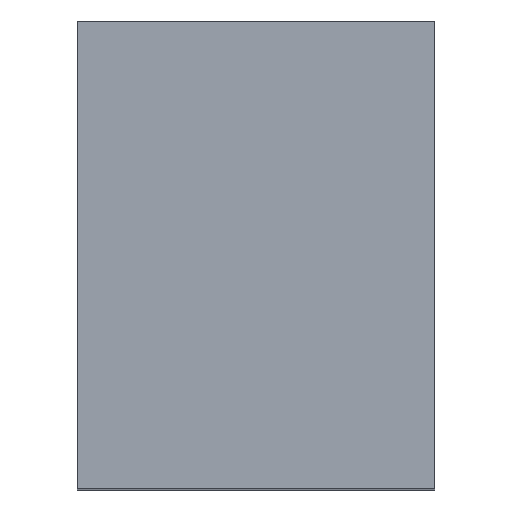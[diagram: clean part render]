
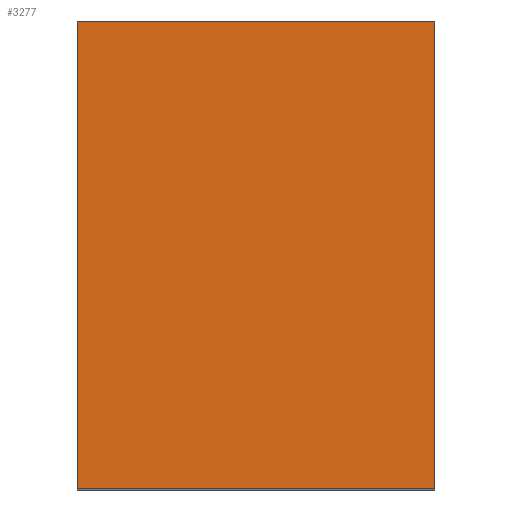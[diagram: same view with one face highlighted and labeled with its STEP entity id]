
A CAD part, top view. The second image highlights one B-rep face of the part: STEP entity #3277.
In plain terms, the highlighted planar face has unit normal (0, 0, 1).
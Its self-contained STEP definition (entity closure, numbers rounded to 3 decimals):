
#52 = ORIENTED_EDGE ( 'NONE', *, *, #5892, .F. ) ;
#184 = DIRECTION ( 'NONE',  ( 1., 0., 0. ) ) ;
#397 = FACE_OUTER_BOUND ( 'NONE', #1837, .T. ) ;
#469 = ORIENTED_EDGE ( 'NONE', *, *, #904, .F. ) ;
#904 = EDGE_CURVE ( 'NONE', #2970, #1495, #1936, .T. ) ;
#1495 = VERTEX_POINT ( 'NONE', #7969 ) ;
#1776 = CARTESIAN_POINT ( 'NONE',  ( -101.022, -736.795, 224.142 ) ) ;
#1837 = EDGE_LOOP ( 'NONE', ( #469, #4231, #6450, #52 ) ) ;
#1936 = LINE ( 'NONE', #2024, #3060 ) ;
#2024 = CARTESIAN_POINT ( 'NONE',  ( -101.022, -263.862, 224.142 ) ) ;
#2347 = CARTESIAN_POINT ( 'NONE',  ( -101.022, -736.795, 224.142 ) ) ;
#2970 = VERTEX_POINT ( 'NONE', #4965 ) ;
#3060 = VECTOR ( 'NONE', #4678, 1000. ) ;
#3277 = ADVANCED_FACE ( 'NONE', ( #397 ), #8328, .T. ) ;
#3693 = CARTESIAN_POINT ( 'NONE',  ( -101.022, -0.203, 224.142 ) ) ;
#3835 = AXIS2_PLACEMENT_3D ( 'NONE', #2347, #5708, #5002 ) ;
#4231 = ORIENTED_EDGE ( 'NONE', *, *, #8247, .T. ) ;
#4270 = CARTESIAN_POINT ( 'NONE',  ( 101.022, -736.795, 224.142 ) ) ;
#4311 = VECTOR ( 'NONE', #184, 1000. ) ;
#4678 = DIRECTION ( 'NONE',  ( -1., 0., 0. ) ) ;
#4704 = EDGE_CURVE ( 'NONE', #8594, #7283, #6151, .T. ) ;
#4965 = CARTESIAN_POINT ( 'NONE',  ( 101.022, -263.862, 224.142 ) ) ;
#5002 = DIRECTION ( 'NONE',  ( 1., 0., 0. ) ) ;
#5121 = LINE ( 'NONE', #1776, #5998 ) ;
#5708 = DIRECTION ( 'NONE',  ( 0., 0., 1. ) ) ;
#5833 = DIRECTION ( 'NONE',  ( 0., 1., 0. ) ) ;
#5892 = EDGE_CURVE ( 'NONE', #1495, #8594, #5121, .T. ) ;
#5998 = VECTOR ( 'NONE', #5833, 1000. ) ;
#6151 = LINE ( 'NONE', #7542, #4311 ) ;
#6280 = LINE ( 'NONE', #4270, #6723 ) ;
#6450 = ORIENTED_EDGE ( 'NONE', *, *, #4704, .F. ) ;
#6723 = VECTOR ( 'NONE', #6809, 1000. ) ;
#6809 = DIRECTION ( 'NONE',  ( 0., 1., 0. ) ) ;
#7283 = VERTEX_POINT ( 'NONE', #7641 ) ;
#7542 = CARTESIAN_POINT ( 'NONE',  ( -101.022, -0.203, 224.142 ) ) ;
#7641 = CARTESIAN_POINT ( 'NONE',  ( 101.022, -0.203, 224.142 ) ) ;
#7969 = CARTESIAN_POINT ( 'NONE',  ( -101.022, -263.862, 224.142 ) ) ;
#8247 = EDGE_CURVE ( 'NONE', #2970, #7283, #6280, .T. ) ;
#8328 = PLANE ( 'NONE',  #3835 ) ;
#8594 = VERTEX_POINT ( 'NONE', #3693 ) ;
